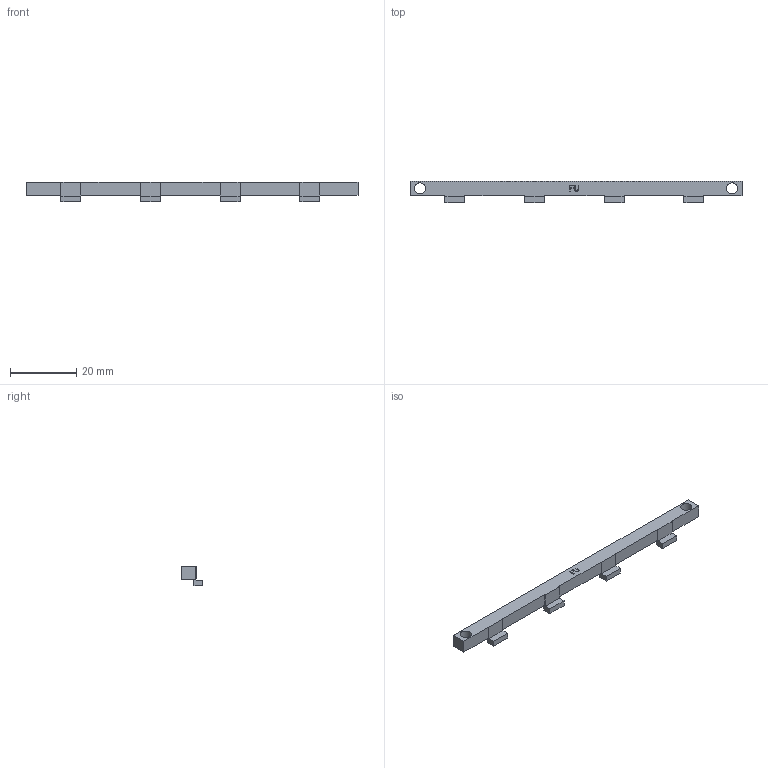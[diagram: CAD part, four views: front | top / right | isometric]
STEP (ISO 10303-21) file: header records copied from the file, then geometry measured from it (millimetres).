
FILE_DESCRIPTION(('Open CASCADE Model'),'2;1');
FILE_NAME('Open CASCADE Shape Model','2026-10-07T10:51:43',('Author'),( 'Open CASCADE'),'Open CASCADE STEP processor 7.8','Open CASCADE 7.8' ,'Unknown');
FILE_SCHEMA(('AUTOMOTIVE_DESIGN { 1 0 10303 214 1 1 1 1 }'));
Length unit declared in the file: millimetre
Products named in the file (1): Open CASCADE STEP translator 7.8 14
Bounding box: 100 x 6.6 x 5.95 mm (x, y, z)
Volume: 1822.3 mm3; surface area: 2018.1 mm2
Topology: 1 solids, 1 shells, 66 faces, 186 edges, 124 vertices
Faces by surface type: plane 56, extrusion 8, cylinder 2
Full cylindrical faces by diameter (mm): 3.4 x2
Entity records: 4644 total; most frequent: CARTESIAN_POINT 1071, DIRECTION 584, VECTOR 454, LINE 446, ORIENTED_EDGE 372, PCURVE 372, DEFINITIONAL_REPRESENTATION 372, EDGE_CURVE 186
